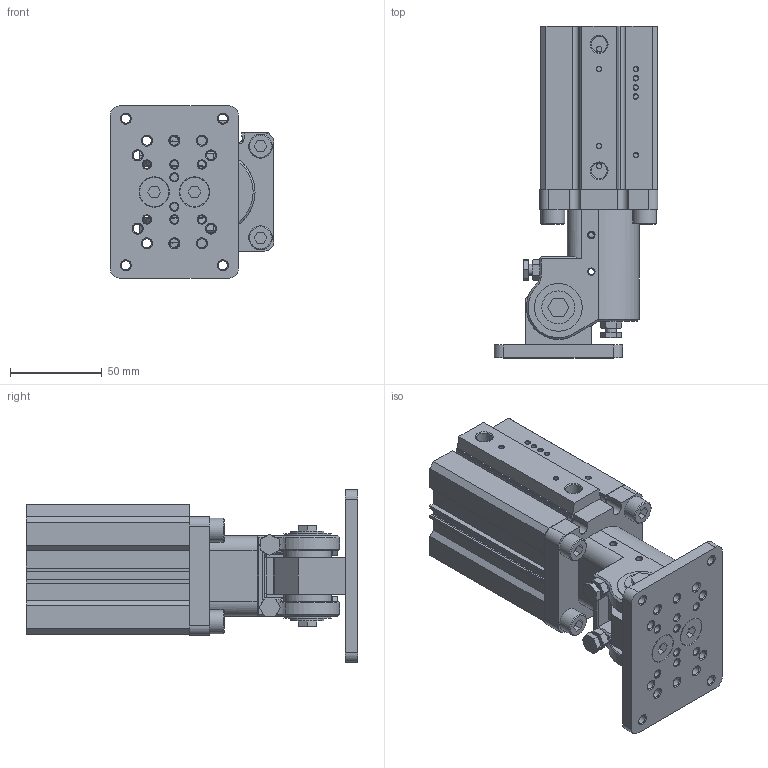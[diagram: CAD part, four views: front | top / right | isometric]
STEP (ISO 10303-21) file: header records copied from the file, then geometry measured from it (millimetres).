
FILE_DESCRIPTION(/* description */ (''),/* implementation_level */ '2;1');
FILE_NAME(/* name */ '_model1.stp',/* time_stamp */ '2023-05-31T09:00:05+08:00',/* author */ (''),/* organization */ (''),/* preprocessor_version */ 'ST-DEVELOPER v14',/* originating_system */ 'SIEMENS PLM Software NX 8.0',/* authorisation */ '');
FILE_SCHEMA (('AP203_CONFIGURATION_CONTROLLED_3D_DESIGN_OF_MECHANICAL_PARTS_AND_ASSEMBLIES_MIM_LF { 1 0 10303 403 2 1 2}'));
Length unit declared in the file: millimetre
Products named in the file (1): Admi0FF02E9Cg4fv
Bounding box: 89.25 x 181 x 94 mm (x, y, z)
Volume: 546064.4 mm3; surface area: 135262.3 mm2
Topology: 32 solids, 32 shells, 699 faces, 1692 edges, 1106 vertices
Faces by surface type: plane 360, cylinder 177, cone 150, bspline 10, torus 2
Full cylindrical faces by diameter (mm): 2 x4, 2.5 x7, 3 x2, 3.3 x8, 4.2 x12, 5 x27, 6 x11, 6.5 x6, 7 x1, 8 x6, 8.6 x6, 12 x8, 13 x4, 16 x2, 18 x2, 20 x2, 22.8 x1, 23 x1, 24 x2, 26 x4, 28 x1, 38 x2, 38.5 x1, 52 x2, 54 x2
Entity records: 20010 total; most frequent: CARTESIAN_POINT 4864, DIRECTION 3071, ORIENTED_EDGE 2736, EDGE_CURVE 1368, AXIS2_PLACEMENT_3D 1176, EDGE_LOOP 1080, VERTEX_POINT 992, LINE 719
